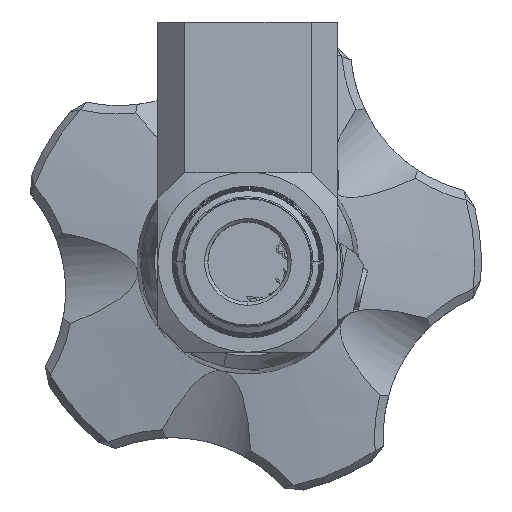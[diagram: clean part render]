
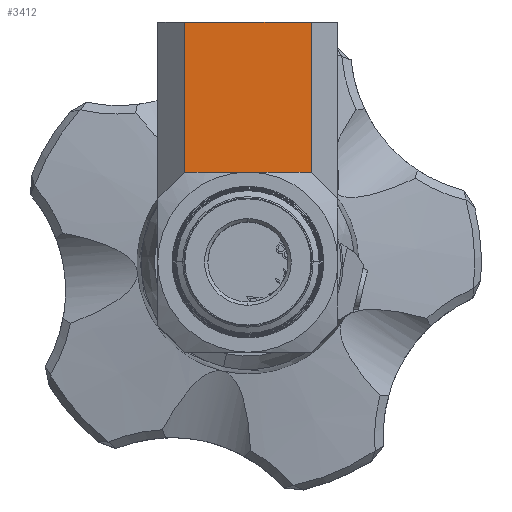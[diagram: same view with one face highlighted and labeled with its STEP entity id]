
A CAD part, top view. The second image highlights one B-rep face of the part: STEP entity #3412.
In plain terms, the highlighted planar face has unit normal (0, 0, 1).
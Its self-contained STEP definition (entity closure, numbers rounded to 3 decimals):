
#2141 = ORIENTED_EDGE ( 'NONE', *, *, #31109, .F. ) ;
#3412 = ADVANCED_FACE ( 'NONE', ( #32457 ), #32625, .F. ) ;
#4898 = VECTOR ( 'NONE', #34110, 1000. ) ;
#5161 = VERTEX_POINT ( 'NONE', #20386 ) ;
#8237 = VERTEX_POINT ( 'NONE', #11422 ) ;
#8639 = LINE ( 'NONE', #26009, #22646 ) ;
#9905 = VECTOR ( 'NONE', #15162, 1000. ) ;
#11422 = CARTESIAN_POINT ( 'NONE',  ( 9.5, 35.995, 5. ) ) ;
#15162 = DIRECTION ( 'NONE',  ( 1., 0., 0. ) ) ;
#15504 = CARTESIAN_POINT ( 'NONE',  ( 9.5, 13.5, 5. ) ) ;
#15633 = CARTESIAN_POINT ( 'NONE',  ( -9.5, 35.995, 5. ) ) ;
#15867 = CARTESIAN_POINT ( 'NONE',  ( -13.5, 36., 5. ) ) ;
#17415 = LINE ( 'NONE', #25373, #32283 ) ;
#17579 = ORIENTED_EDGE ( 'NONE', *, *, #21106, .T. ) ;
#18655 = DIRECTION ( 'NONE',  ( -1., 0., 0. ) ) ;
#20386 = CARTESIAN_POINT ( 'NONE',  ( -9.5, 13.5, 5. ) ) ;
#21106 = EDGE_CURVE ( 'NONE', #22569, #8237, #27239, .T. ) ;
#22569 = VERTEX_POINT ( 'NONE', #15504 ) ;
#22646 = VECTOR ( 'NONE', #34381, 1000. ) ;
#22803 = EDGE_CURVE ( 'NONE', #5161, #22569, #17415, .T. ) ;
#24848 = EDGE_LOOP ( 'NONE', ( #2141, #27085, #25015, #17579 ) ) ;
#25015 = ORIENTED_EDGE ( 'NONE', *, *, #22803, .T. ) ;
#25373 = CARTESIAN_POINT ( 'NONE',  ( -13.5, 13.5, 5. ) ) ;
#25607 = AXIS2_PLACEMENT_3D ( 'NONE', #15867, #35449, #18655 ) ;
#26009 = CARTESIAN_POINT ( 'NONE',  ( -9.5, 36., 5. ) ) ;
#27085 = ORIENTED_EDGE ( 'NONE', *, *, #31081, .T. ) ;
#27239 = LINE ( 'NONE', #31321, #4898 ) ;
#29637 = VERTEX_POINT ( 'NONE', #15633 ) ;
#31081 = EDGE_CURVE ( 'NONE', #29637, #5161, #8639, .T. ) ;
#31109 = EDGE_CURVE ( 'NONE', #29637, #8237, #31402, .T. ) ;
#31321 = CARTESIAN_POINT ( 'NONE',  ( 9.5, 36., 5. ) ) ;
#31402 = LINE ( 'NONE', #31943, #9905 ) ;
#31943 = CARTESIAN_POINT ( 'NONE',  ( -13.5, 35.995, 5. ) ) ;
#32283 = VECTOR ( 'NONE', #36305, 1000. ) ;
#32457 = FACE_OUTER_BOUND ( 'NONE', #24848, .T. ) ;
#32625 = PLANE ( 'NONE',  #25607 ) ;
#34110 = DIRECTION ( 'NONE',  ( 0., 1., 0. ) ) ;
#34381 = DIRECTION ( 'NONE',  ( 0., -1., 0. ) ) ;
#35449 = DIRECTION ( 'NONE',  ( 0., 0., -1. ) ) ;
#36305 = DIRECTION ( 'NONE',  ( 1., 0., 0. ) ) ;
